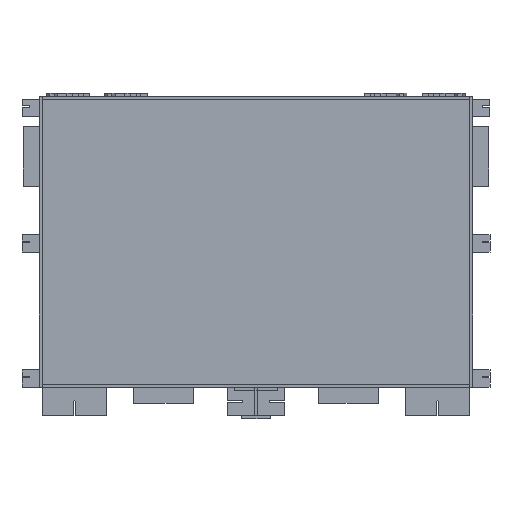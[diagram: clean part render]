
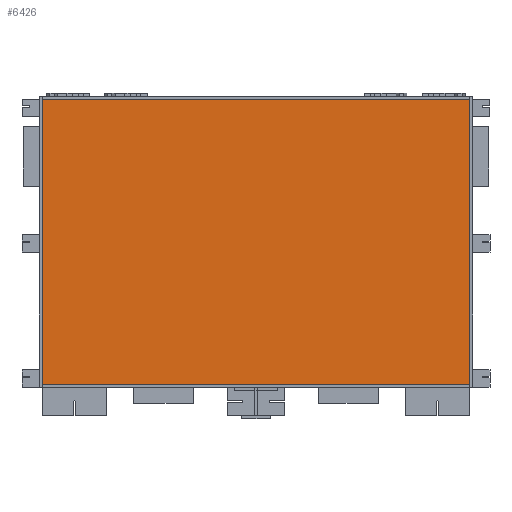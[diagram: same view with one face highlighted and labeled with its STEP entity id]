
A CAD part, front view. The second image highlights one B-rep face of the part: STEP entity #6426.
In plain terms, the highlighted planar face has unit normal (0, -1, 0).
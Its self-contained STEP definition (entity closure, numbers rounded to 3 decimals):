
#1088=FACE_OUTER_BOUND('',#1453,.T.);
#1453=EDGE_LOOP('',(#4564,#4565,#4566,#4567));
#1870=LINE('',#10031,#2522);
#1874=LINE('',#10039,#2526);
#1877=LINE('',#10045,#2529);
#1880=LINE('',#10050,#2532);
#2522=VECTOR('',#8003,10.);
#2526=VECTOR('',#8009,10.);
#2529=VECTOR('',#8014,10.);
#2532=VECTOR('',#8019,10.);
#3166=VERTEX_POINT('',#10029);
#3167=VERTEX_POINT('',#10030);
#3170=VERTEX_POINT('',#10038);
#3172=VERTEX_POINT('',#10044);
#3709=EDGE_CURVE('',#3166,#3167,#1870,.T.);
#3713=EDGE_CURVE('',#3167,#3170,#1874,.T.);
#3716=EDGE_CURVE('',#3170,#3172,#1877,.T.);
#3719=EDGE_CURVE('',#3172,#3166,#1880,.T.);
#4564=ORIENTED_EDGE('',*,*,#3719,.T.);
#4565=ORIENTED_EDGE('',*,*,#3709,.T.);
#4566=ORIENTED_EDGE('',*,*,#3713,.T.);
#4567=ORIENTED_EDGE('',*,*,#3716,.T.);
#6135=PLANE('',#7274);
#6426=ADVANCED_FACE('',(#1088),#6135,.F.);
#7274=AXIS2_PLACEMENT_3D('',#10053,#8023,#8024);
#8003=DIRECTION('',(0.,0.,-1.));
#8009=DIRECTION('',(1.,0.,0.));
#8014=DIRECTION('',(0.,0.,1.));
#8019=DIRECTION('',(-1.,0.,0.));
#8023=DIRECTION('center_axis',(0.,1.,0.));
#8024=DIRECTION('ref_axis',(1.,0.,0.));
#10029=CARTESIAN_POINT('',(0.,0.,2000.));
#10030=CARTESIAN_POINT('',(0.,0.,0.));
#10031=CARTESIAN_POINT('',(0.,0.,2000.));
#10038=CARTESIAN_POINT('',(3000.,0.,0.));
#10039=CARTESIAN_POINT('',(0.,0.,0.));
#10044=CARTESIAN_POINT('',(3000.,0.,2000.));
#10045=CARTESIAN_POINT('',(3000.,0.,0.));
#10050=CARTESIAN_POINT('',(3000.,0.,2000.));
#10053=CARTESIAN_POINT('Origin',(1500.,0.,1000.));
